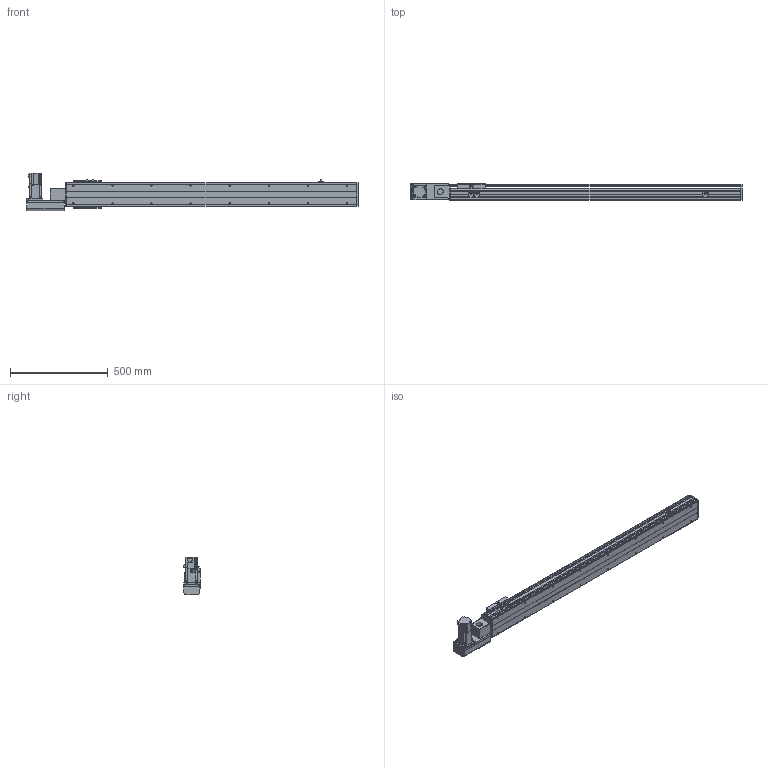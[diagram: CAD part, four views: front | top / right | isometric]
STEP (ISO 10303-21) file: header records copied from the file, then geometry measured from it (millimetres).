
FILE_DESCRIPTION( ( 'STEP AP214' ), '1' );
FILE_NAME( 'x:/temp/worker_26/temp/exporttempdir_3776_63_rXYL5/format_0/PBS120-P40-S1200-L-T40-C1-N(0).stp', '2022-06-05T00:25:54', ( 'License CC BY-ND 4.0' ), ( 'CADENAS' ), ' ', 'PARTsolutions', ' ' );
FILE_SCHEMA( ( 'AUTOMOTIVE_DESIGN { 1 0 10303 214 1 1 1 1 }' ) );
Length unit declared in the file: millimetre
Products named in the file (7): PBS120-P40-S1200-L-T40-C1-N(0); _PBS120-S1200()_body; _PBS120T-L_motors; _T40-p1; _PBS120_sliser; _PBS120_plant; _PBS120_sensor
Assembly tree (8 placements, depth 2):
  PBS120-P40-S1200-L-T40-C1-N(0)
    _PBS120-S1200()_body
    _PBS120T-L_motors
    _T40-p1
    _PBS120_sliser
    _PBS120_plant
    _PBS120_sensor  x3
Bounding box: 1701 x 83 x 189.7 mm (x, y, z)
Volume: 6612392.1 mm3; surface area: 1307288 mm2
Topology: 8 solids, 8 shells, 828 faces, 2156 edges, 1387 vertices
Faces by surface type: plane 549, cylinder 229, cone 48, torus 2
Full cylindrical faces by diameter (mm): 2.459 x6, 3.242 x4, 4 x2, 4.134 x4, 4.5 x10, 4.917 x20, 5.5 x11, 6 x2, 6.6 x1, 7 x2, 8.5 x4, 9 x4, 12 x1, 14 x1, 30 x2, 40 x1, 50 x2
Entity records: 27324 total; most frequent: DIRECTION 3740, CARTESIAN_POINT 3677, ORIENTED_EDGE 3502, EDGE_CURVE 1751, AXIS2_PLACEMENT_3D 1256, LINE 1228, VECTOR 1228, VERTEX_POINT 1193
